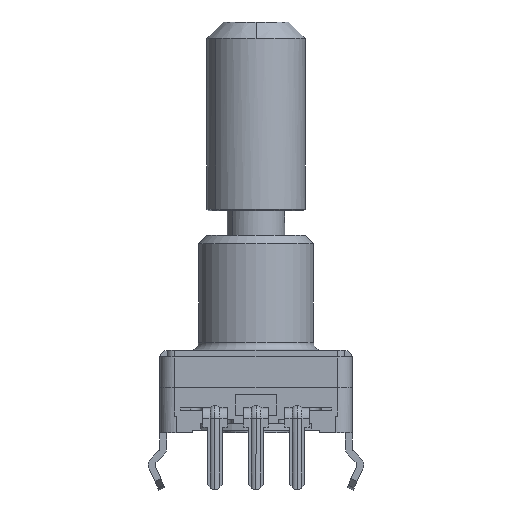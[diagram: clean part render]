
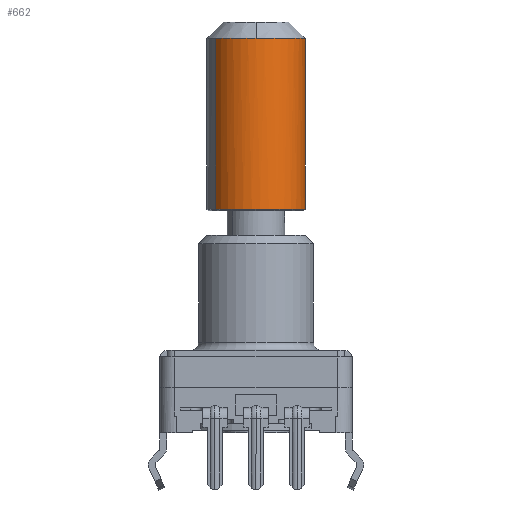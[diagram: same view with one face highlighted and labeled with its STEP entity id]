
A CAD part, front view. The second image highlights one B-rep face of the part: STEP entity #662.
In plain terms, the highlighted cylindrical face has radius 3 mm (diameter 6 mm), a partial arc.
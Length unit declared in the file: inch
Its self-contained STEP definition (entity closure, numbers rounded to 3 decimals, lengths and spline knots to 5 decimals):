
#662=ADVANCED_FACE('65007986-5282-44fc-8b47-a097df8a864c',(#1924),#1925,.T.);
#1924=FACE_OUTER_BOUND('',#3808,.T.);
#1925=CYLINDRICAL_SURFACE('',#3809,0.11811);
#3808=EDGE_LOOP('',(#5778,#5779,#5780,#5781,#5782,#5783,#5784));
#3809=AXIS2_PLACEMENT_3D('',#5785,#5786,#5787);
#5778=ORIENTED_EDGE('',*,*,#11454,.F.);
#5779=ORIENTED_EDGE('',*,*,#11455,.F.);
#5780=ORIENTED_EDGE('',*,*,#11456,.T.);
#5781=ORIENTED_EDGE('',*,*,#11457,.T.);
#5782=ORIENTED_EDGE('',*,*,#11458,.T.);
#5783=ORIENTED_EDGE('',*,*,#11459,.F.);
#5784=ORIENTED_EDGE('',*,*,#11460,.T.);
#5785=CARTESIAN_POINT('',(0.,0.,0.55512));
#5786=DIRECTION('',(0.,0.,1.0));
#5787=DIRECTION('',(0.819,0.574,0.));
#11454=EDGE_CURVE('',#13744,#13745,#13746,.T.);
#11455=EDGE_CURVE('',#13747,#13744,#13748,.T.);
#11456=EDGE_CURVE('',#13747,#13749,#13750,.T.);
#11457=EDGE_CURVE('',#13749,#13751,#13752,.T.);
#11458=EDGE_CURVE('',#13751,#13753,#13754,.T.);
#11459=EDGE_CURVE('',#13755,#13753,#13756,.T.);
#11460=EDGE_CURVE('',#13755,#13745,#13757,.T.);
#13744=VERTEX_POINT('',#17082);
#13745=VERTEX_POINT('',#17083);
#13746=LINE('',#17084,#17085);
#13747=VERTEX_POINT('',#17086);
#13748=CIRCLE('',#17087,0.11811);
#13749=VERTEX_POINT('',#17088);
#13750=LINE('',#17089,#17090);
#13751=VERTEX_POINT('',#17091);
#13752=CIRCLE('',#17092,0.11811);
#13753=VERTEX_POINT('',#17093);
#13754=CIRCLE('',#17094,0.11811);
#13755=VERTEX_POINT('',#17095);
#13756=LINE('',#17096,#17097);
#13757=CIRCLE('',#17098,0.11811);
#17082=CARTESIAN_POINT('',(0.09674,0.06777,0.59055));
#17083=CARTESIAN_POINT('',(0.09674,0.06777,0.53543));
#17084=CARTESIAN_POINT('',(0.09674,0.06777,0.55512));
#17085=VECTOR('',#21831,1.0);
#17086=CARTESIAN_POINT('',(0.10229,0.05906,0.59055));
#17087=AXIS2_PLACEMENT_3D('',#21832,#21833,#21834);
#17088=CARTESIAN_POINT('',(0.10229,0.05906,0.94488));
#17089=CARTESIAN_POINT('',(0.10229,0.05906,0.55512));
#17090=VECTOR('',#21835,1000.0);
#17091=CARTESIAN_POINT('',(0.,-0.11811,0.94488));
#17092=AXIS2_PLACEMENT_3D('',#21836,#21837,#21838);
#17093=CARTESIAN_POINT('',(-0.09674,-0.06777,0.94488));
#17094=AXIS2_PLACEMENT_3D('',#21839,#21840,#21841);
#17095=CARTESIAN_POINT('',(-0.09674,-0.06777,0.53543));
#17096=CARTESIAN_POINT('',(-0.09674,-0.06777,0.55512));
#17097=VECTOR('',#21842,1.0);
#17098=AXIS2_PLACEMENT_3D('',#21843,#21844,#21845);
#21831=DIRECTION('',(0.,0.,-1.0));
#21832=CARTESIAN_POINT('',(0.,0.,0.59055));
#21833=DIRECTION('',(0.0,0.,1.0));
#21834=DIRECTION('',(0.0,1.0,0.));
#21835=DIRECTION('',(0.,0.,1.0));
#21836=CARTESIAN_POINT('',(0.,0.,0.94488));
#21837=DIRECTION('',(0.,0.,-1.0));
#21838=DIRECTION('',(0.0,-1.0,0.));
#21839=CARTESIAN_POINT('',(0.,0.,0.94488));
#21840=DIRECTION('',(0.,0.,-1.0));
#21841=DIRECTION('',(0.0,-1.0,0.));
#21842=DIRECTION('',(0.,0.,1.0));
#21843=CARTESIAN_POINT('',(0.,0.,0.53543));
#21844=DIRECTION('',(0.,0.,1.0));
#21845=DIRECTION('',(0.819,0.574,0.));
